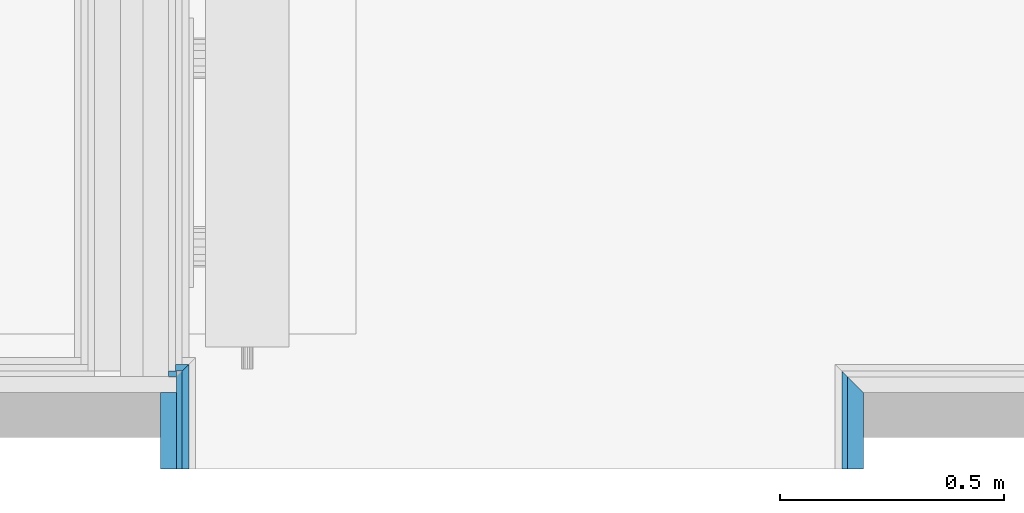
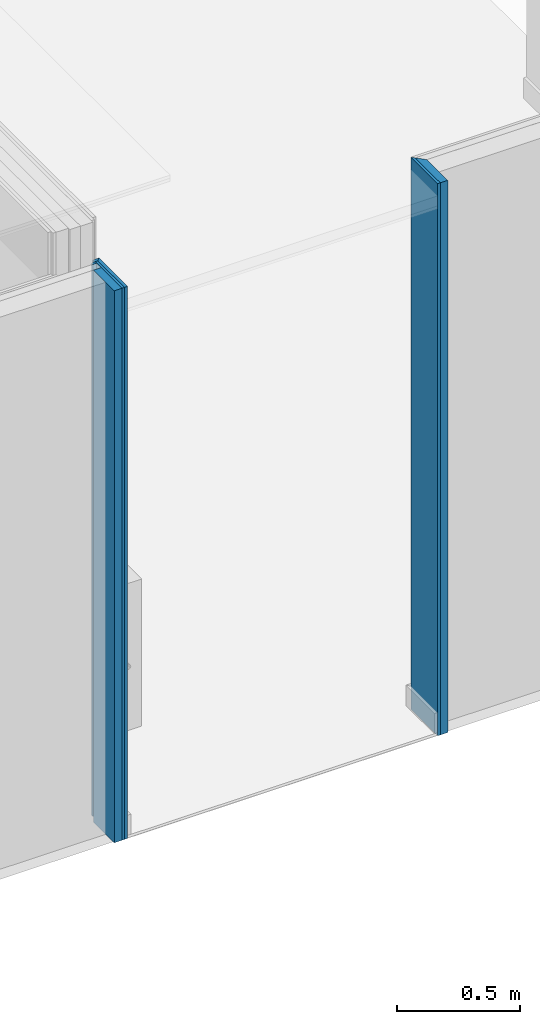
# One storey, part 19 of 64: 7 building element parts, 3 elements without a shape of their own.
"""IFC2X3 building model written with IfcOpenShell, lengths in metres."""

from ifc_helpers import new_model, entity, si_unit, converted_unit, derived_unit, money_unit, direction, frame, frame_2d, origin_with_axes, place, context, subcontext, project, spatial, polyline, rectangle, outline, extrude, material, type_object, element, aggregate, save


model = new_model("IFC2X3")

# Units and contexts
model_context = context("Model", 3, precision=1e-05, world=origin_with_axes(), true_north=direction((0.0, 1.0)))
body_context = subcontext(model_context, "Body", "Model", "MODEL_VIEW", scale=1.0)
ifc_project = project(units=[si_unit("LENGTHUNIT", "METRE"), si_unit("AREAUNIT", "SQUARE_METRE"), si_unit("VOLUMEUNIT", "CUBIC_METRE"), si_unit("ABSORBEDDOSEUNIT", "GRAY"), si_unit("AMOUNTOFSUBSTANCEUNIT", "MOLE"), si_unit("DOSEEQUIVALENTUNIT", "SIEVERT"), si_unit("ELECTRICCAPACITANCEUNIT", "FARAD"), si_unit("ELECTRICCHARGEUNIT", "COULOMB"), si_unit("ELECTRICCONDUCTANCEUNIT", "SIEMENS"), si_unit("ELECTRICCURRENTUNIT", "AMPERE"), si_unit("ELECTRICRESISTANCEUNIT", "OHM"), si_unit("ELECTRICVOLTAGEUNIT", "VOLT"), si_unit("ENERGYUNIT", "JOULE"), si_unit("FORCEUNIT", "NEWTON"), si_unit("FREQUENCYUNIT", "HERTZ"), si_unit("ILLUMINANCEUNIT", "LUX"), si_unit("INDUCTANCEUNIT", "HENRY"), si_unit("LUMINOUSFLUXUNIT", "LUMEN"), si_unit("LUMINOUSINTENSITYUNIT", "CANDELA"), si_unit("MAGNETICFLUXDENSITYUNIT", "TESLA"), si_unit("MAGNETICFLUXUNIT", "WEBER"), si_unit("MASSUNIT", "GRAM"), converted_unit("PLANEANGLEUNIT", "degree", entity("IfcReal", 0.0174532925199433), si_unit("PLANEANGLEUNIT", "RADIAN"), dimensions=[0, 0, 0, 0, 0, 0, 0]), si_unit("POWERUNIT", "WATT"), si_unit("PRESSUREUNIT", "PASCAL"), si_unit("RADIOACTIVITYUNIT", "BECQUEREL"), si_unit("SOLIDANGLEUNIT", "STERADIAN"), si_unit("THERMODYNAMICTEMPERATUREUNIT", "KELVIN"), si_unit("TIMEUNIT", "SECOND"), derived_unit("ACCELERATIONUNIT", [(si_unit("LENGTHUNIT", "METRE"), 1), (si_unit("TIMEUNIT", "SECOND"), -2)]), derived_unit("ANGULARVELOCITYUNIT", [(converted_unit("PLANEANGLEUNIT", "degree", entity("IfcReal", 0.0174532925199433), si_unit("PLANEANGLEUNIT", "RADIAN"), dimensions=[0, 0, 0, 0, 0, 0, 0]), 1), (si_unit("TIMEUNIT", "SECOND"), -1)]), derived_unit("CURVATUREUNIT", [(converted_unit("PLANEANGLEUNIT", "degree", entity("IfcReal", 0.0174532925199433), si_unit("PLANEANGLEUNIT", "RADIAN"), dimensions=[0, 0, 0, 0, 0, 0, 0]), 1), (si_unit("LENGTHUNIT", "METRE"), -1)]), derived_unit("DYNAMICVISCOSITYUNIT", [(si_unit("PRESSUREUNIT", "PASCAL"), 1), (si_unit("TIMEUNIT", "SECOND"), 1)]), derived_unit("HEATFLUXDENSITYUNIT", [(si_unit("POWERUNIT", "WATT"), 1), (si_unit("LENGTHUNIT", "METRE"), -2)]), derived_unit("HEATINGVALUEUNIT", [(si_unit("ENERGYUNIT", "JOULE"), 1), (si_unit("MASSUNIT", "GRAM"), -1)]), derived_unit("INTEGERCOUNTRATEUNIT", [(si_unit("TIMEUNIT", "SECOND"), -1)]), derived_unit("IONCONCENTRATIONUNIT", [(si_unit("MASSUNIT", "GRAM"), 1), (si_unit("VOLUMEUNIT", "CUBIC_METRE"), -1)]), derived_unit("ISOTHERMALMOISTURECAPACITYUNIT", [(si_unit("VOLUMEUNIT", "CUBIC_METRE"), 1), (si_unit("MASSUNIT", "GRAM"), -1)]), derived_unit("KINEMATICVISCOSITYUNIT", [(si_unit("AREAUNIT", "SQUARE_METRE"), 1), (si_unit("TIMEUNIT", "SECOND"), -1)]), derived_unit("LINEARFORCEUNIT", [(si_unit("FORCEUNIT", "NEWTON"), 1), (si_unit("LENGTHUNIT", "METRE"), -1)]), derived_unit("LINEARMOMENTUNIT", [(si_unit("FORCEUNIT", "NEWTON"), 1), (si_unit("LENGTHUNIT", "METRE"), -1)]), derived_unit("LINEARSTIFFNESSUNIT", [(si_unit("FORCEUNIT", "NEWTON"), 1), (si_unit("LENGTHUNIT", "METRE"), -1)]), derived_unit("LINEARVELOCITYUNIT", [(si_unit("LENGTHUNIT", "METRE"), 1), (si_unit("TIMEUNIT", "SECOND"), -1)]), derived_unit("LUMINOUSINTENSITYDISTRIBUTIONUNIT", [(si_unit("LUMINOUSINTENSITYUNIT", "CANDELA"), 1), (si_unit("LUMINOUSFLUXUNIT", "LUMEN"), -1)]), derived_unit("MASSDENSITYUNIT", [(si_unit("MASSUNIT", "GRAM"), 1), (si_unit("VOLUMEUNIT", "CUBIC_METRE"), -1)]), derived_unit("MASSFLOWRATEUNIT", [(si_unit("MASSUNIT", "GRAM"), 1), (si_unit("TIMEUNIT", "SECOND"), -1)]), derived_unit("MASSPERLENGTHUNIT", [(si_unit("MASSUNIT", "GRAM"), 1), (si_unit("LENGTHUNIT", "METRE"), -1)]), derived_unit("MODULUSOFELASTICITYUNIT", [(si_unit("FORCEUNIT", "NEWTON"), 1), (si_unit("AREAUNIT", "SQUARE_METRE"), -1)]), derived_unit("MODULUSOFLINEARSUBGRADEREACTIONUNIT", [(si_unit("FORCEUNIT", "NEWTON"), 1), (si_unit("LENGTHUNIT", "METRE"), -2)]), derived_unit("MODULUSOFROTATIONALSUBGRADEREACTIONUNIT", [(si_unit("FORCEUNIT", "NEWTON"), 1), (si_unit("LENGTHUNIT", "METRE"), 1)]), derived_unit("MODULUSOFSUBGRADEREACTIONUNIT", [(si_unit("FORCEUNIT", "NEWTON"), 1), (si_unit("VOLUMEUNIT", "CUBIC_METRE"), -1)]), derived_unit("MOISTUREDIFFUSIVITYUNIT", [(si_unit("VOLUMEUNIT", "CUBIC_METRE"), 1), (si_unit("TIMEUNIT", "SECOND"), -1)]), derived_unit("MOLECULARWEIGHTUNIT", [(si_unit("MASSUNIT", "GRAM"), 1), (si_unit("AMOUNTOFSUBSTANCEUNIT", "MOLE"), -1)]), derived_unit("PLANARFORCEUNIT", [(si_unit("FORCEUNIT", "NEWTON"), 1), (si_unit("LENGTHUNIT", "METRE"), -2)]), derived_unit("ROTATIONALFREQUENCYUNIT", [(si_unit("TIMEUNIT", "SECOND"), -1)]), derived_unit("ROTATIONALMASSUNIT", [(si_unit("MASSUNIT", "GRAM"), 1), (si_unit("LENGTHUNIT", "METRE"), 2)]), derived_unit("ROTATIONALSTIFFNESSUNIT", [(si_unit("FORCEUNIT", "NEWTON"), 1), (si_unit("LENGTHUNIT", "METRE"), 1), (converted_unit("PLANEANGLEUNIT", "degree", entity("IfcReal", 0.0174532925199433), si_unit("PLANEANGLEUNIT", "RADIAN"), dimensions=[0, 0, 0, 0, 0, 0, 0]), -1)]), derived_unit("SECTIONAREAINTEGRALUNIT", [(si_unit("LENGTHUNIT", "METRE"), 5)]), derived_unit("SECTIONMODULUSUNIT", [(si_unit("LENGTHUNIT", "METRE"), 3)]), derived_unit("SHEARMODULUSUNIT", [(si_unit("FORCEUNIT", "NEWTON"), 1), (si_unit("AREAUNIT", "SQUARE_METRE"), -1)]), derived_unit("SOUNDPOWERUNIT", [(si_unit("ENERGYUNIT", "JOULE"), 1), (si_unit("TIMEUNIT", "SECOND"), -1)]), derived_unit("SPECIFICHEATCAPACITYUNIT", [(si_unit("FORCEUNIT", "NEWTON"), 1), (si_unit("MASSUNIT", "GRAM"), -1), (si_unit("THERMODYNAMICTEMPERATUREUNIT", "KELVIN"), -1)]), derived_unit("TEMPERATUREGRADIENTUNIT", [(si_unit("THERMODYNAMICTEMPERATUREUNIT", "KELVIN"), 1), (si_unit("LENGTHUNIT", "METRE"), -1)]), derived_unit("THERMALADMITTANCEUNIT", [(si_unit("POWERUNIT", "WATT"), 1), (si_unit("AREAUNIT", "SQUARE_METRE"), -1), (si_unit("THERMODYNAMICTEMPERATUREUNIT", "KELVIN"), -1)]), derived_unit("THERMALCONDUCTANCEUNIT", [(si_unit("POWERUNIT", "WATT"), 1), (si_unit("LENGTHUNIT", "METRE"), -1), (si_unit("THERMODYNAMICTEMPERATUREUNIT", "KELVIN"), -1)]), derived_unit("THERMALEXPANSIONCOEFFICIENTUNIT", [(si_unit("THERMODYNAMICTEMPERATUREUNIT", "KELVIN"), -1)]), derived_unit("THERMALRESISTANCEUNIT", [(si_unit("AREAUNIT", "SQUARE_METRE"), 1), (si_unit("POWERUNIT", "WATT"), -1)]), derived_unit("THERMALTRANSMITTANCEUNIT", [(si_unit("POWERUNIT", "WATT"), 1), (si_unit("AREAUNIT", "SQUARE_METRE"), -1), (si_unit("THERMODYNAMICTEMPERATUREUNIT", "KELVIN"), -1)]), derived_unit("TORQUEUNIT", [(si_unit("FORCEUNIT", "NEWTON"), 1), (si_unit("LENGTHUNIT", "METRE"), 1)]), derived_unit("VAPORPERMEABILITYUNIT", [(si_unit("MASSUNIT", "GRAM"), 1), (si_unit("TIMEUNIT", "SECOND"), -1)]), derived_unit("VOLUMETRICFLOWRATEUNIT", [(si_unit("VOLUMEUNIT", "CUBIC_METRE"), 1), (si_unit("TIMEUNIT", "SECOND"), -1)]), derived_unit("WARPINGCONSTANTUNIT", [(si_unit("LENGTHUNIT", "METRE"), 6)]), derived_unit("WARPINGMOMENTUNIT", [(si_unit("FORCEUNIT", "NEWTON"), 1), (si_unit("LENGTHUNIT", "METRE"), 2)]), money_unit("GBP")], contexts=[model_context])

# Site, building, storey
site_placement = place(None, origin_with_axes())
site = spatial("IfcSite", under=ifc_project, at=site_placement, Name="Site", CompositionType="ELEMENT")
building_placement = place(site_placement, origin_with_axes())
building = spatial("IfcBuilding", under=site, at=building_placement, Name="Building01", CompositionType="ELEMENT")
storey_placement = place(building_placement, frame((0.0, 0.0, 8.64), z_axis=(0.0, 0.0, 1.0), x_axis=(1.0, 0.0, 0.0)))
storey = spatial("IfcBuildingStorey", under=building, at=storey_placement, Name="2F", CompositionType="ELEMENT", Elevation=8.64)

# Wall, building element parts
wall_type_1 = type_object("IfcWallType", Name="SHE_A-Walls_Type06d_ExternalWallInsulation_48mm", PredefinedType="NOTDEFINED")
wall_1_placement = place(storey_placement, frame((24.143, 0.1, 0.0), z_axis=(0.0, 0.0, 1.0), x_axis=(0.0, 1.0, 0.0)))
wall_1 = element("IfcWall", 1, at=wall_1_placement, inside=storey, type_object=wall_type_1, Name="6D", ObjectType="SHE_A-Walls_Type06d_ExternalWallInsulation_48mm")
ifc_material_1 = material(Name="A_BSUK_Insulation")
placement_1 = place(wall_1_placement, origin_with_axes())
building_element_part_1 = element("IfcBuildingElementPart", 2, at=placement_1, material=ifc_material_1, Name="1", context=body_context, shape_type="SweptSolid", body=[
    extrude(outline(polyline([(0.206, 0.036), (0.0, 0.036), (0.0, 0.0), (0.17, 0.0), (0.206, 0.036)])), origin_with_axes(), (0.0, 0.0, 1.0), 2.74),
])
ifc_material_2 = material(Name="A_BSUK_WallInternal_Finishes_Plasterboard")
building_element_part_2 = element("IfcBuildingElementPart", 3, at=placement_1, material=ifc_material_2, Name="2", context=body_context, shape_type="SweptSolid", body=[
    extrude(outline(polyline([(0.218, 0.048), (0.0, 0.048), (0.0, 0.035), (0.205, 0.035), (0.218, 0.048)])), origin_with_axes(), (0.0, 0.0, 1.0), 2.74),
])
aggregate(wall_1, [building_element_part_1, building_element_part_2])

wall_type_2 = type_object("IfcWallType", Name="SHE_A-Walls_Type06f_ExternalWallInsulation_48+15mm", PredefinedType="NOTDEFINED")
wall_2_placement = place(storey_placement, frame((22.613124, 0.27, 0.0), z_axis=(0.0, 0.0, 1.0), x_axis=(1.0, 0.0, 0.0)))
wall_2 = element("IfcWall", 4, at=wall_2_placement, inside=storey, type_object=wall_type_2, Name="6F", ObjectType="SHE_A-Walls_Type06f_ExternalWallInsulation_48+15mm")
placement_2 = place(wall_2_placement, origin_with_axes())
building_element_part_3 = element("IfcBuildingElementPart", 5, at=placement_2, material=ifc_material_2, Name="3", context=body_context, shape_type="SweptSolid", body=[
    extrude(rectangle(XDim=0.012, YDim=0.018124, at=frame_2d((-0.009062, 0.042), x_axis=(0.0, 1.0))), origin_with_axes(), (0.0, 0.0, 1.0), 2.74),
])
building_element_part_4 = element("IfcBuildingElementPart", 6, at=placement_2, material=ifc_material_2, Name="4", context=body_context, shape_type="SweptSolid", body=[
    extrude(outline(polyline([(0.012, 0.048), (0.027, 0.063), (-0.003124, 0.063), (-0.003124, 0.048), (0.012, 0.048)])), origin_with_axes(), (0.0, 0.0, 1.0), 2.74),
])
aggregate(wall_2, [building_element_part_3, building_element_part_4])

wall_3_placement = place(storey_placement, frame((22.577124, 0.27, 0.0), z_axis=(0.0, 0.0, 1.0), x_axis=(0.0, 1.0, 0.0)))
wall_3 = element("IfcWall", 7, at=wall_3_placement, inside=storey, type_object=wall_type_2, Name="6F", ObjectType="SHE_A-Walls_Type06f_ExternalWallInsulation_48+15mm")
placement_3 = place(wall_3_placement, origin_with_axes())
building_element_part_5 = element("IfcBuildingElementPart", 8, at=placement_3, material=ifc_material_2, Name="2", context=body_context, shape_type="SweptSolid", body=[
    extrude(outline(polyline([(-0.17, -0.063), (0.063, -0.063), (0.048, -0.048), (-0.17, -0.048), (-0.17, -0.063)])), origin_with_axes(), (0.0, 0.0, 1.0), 2.74),
])
building_element_part_6 = element("IfcBuildingElementPart", 9, at=placement_3, material=ifc_material_2, Name="3", context=body_context, shape_type="SweptSolid", body=[
    extrude(rectangle(XDim=0.218, YDim=0.012, at=frame_2d((-0.061, -0.042), x_axis=(1.0, 0.0))), origin_with_axes(), (0.0, 0.0, 1.0), 2.74),
])
building_element_part_7 = element("IfcBuildingElementPart", 10, at=placement_3, material=ifc_material_1, Name="4", context=body_context, shape_type="SweptSolid", body=[
    extrude(rectangle(XDim=0.17, YDim=0.036, at=frame_2d((-0.085, -0.018), x_axis=(1.0, 0.0))), origin_with_axes(), (0.0, 0.0, 1.0), 2.74),
])
aggregate(wall_3, [building_element_part_5, building_element_part_6, building_element_part_7])

save(model, "model.ifc")
